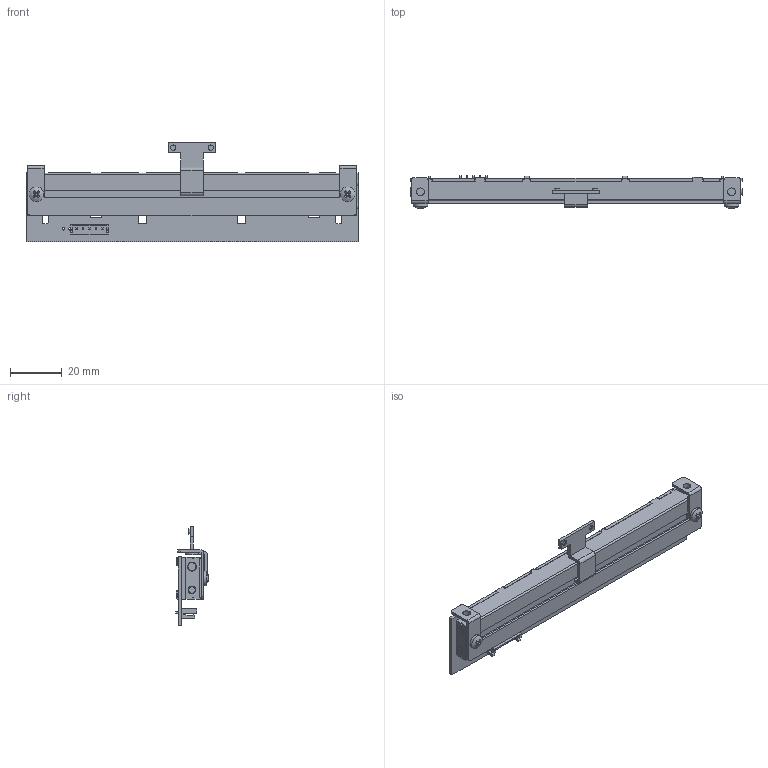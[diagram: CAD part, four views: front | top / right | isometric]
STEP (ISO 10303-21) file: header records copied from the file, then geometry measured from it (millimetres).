
FILE_DESCRIPTION(('FreeCAD Model'),'2;1');
FILE_NAME('Open CASCADE Shape Model','2025-09-09T13:16:44',(''),(''), 'Open CASCADE STEP processor 7.8','FreeCAD','Unknown');
FILE_SCHEMA(('AUTOMOTIVE_DESIGN { 1 0 10303 214 1 1 1 1 }'));
Length unit declared in the file: millimetre
Products named in the file (1): LSVH2-110X-CN
Bounding box: 128 x 12.65 x 38.25 mm (x, y, z)
Volume: 20775.7 mm3; surface area: 12006.9 mm2
Topology: 2 solids, 6 shells, 533 faces, 1428 edges, 923 vertices
Faces by surface type: plane 403, cylinder 116, cone 12, sphere 2
Full cylindrical faces by diameter (mm): 1 x7, 2 x4, 2.5 x2, 3 x7, 3.2 x2, 3.5 x1, 4 x2, 5 x2, 5.6 x2
Entity records: 18907 total; most frequent: CARTESIAN_POINT 2889, DIRECTION 2855, ORIENTED_EDGE 2852, EDGE_CURVE 1426, LINE 1053, VECTOR 1053, VERTEX_POINT 923, AXIS2_PLACEMENT_3D 901
